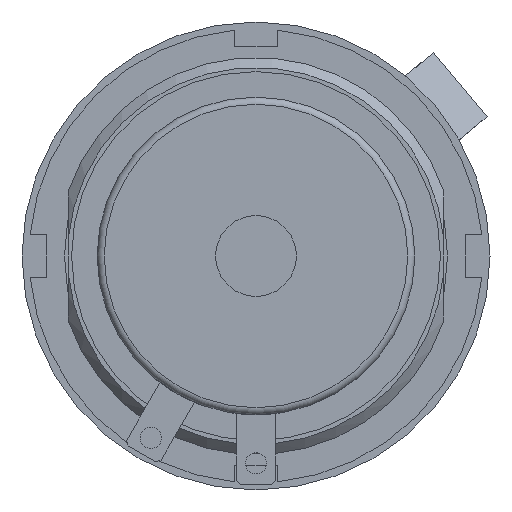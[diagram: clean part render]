
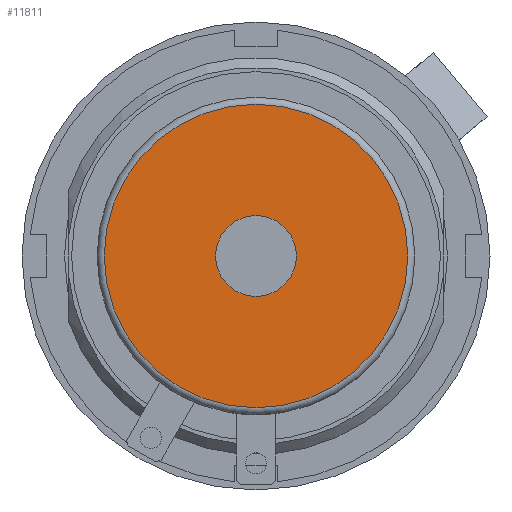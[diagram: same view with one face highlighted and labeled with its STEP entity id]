
A CAD part, front view. The second image highlights one B-rep face of the part: STEP entity #11811.
In plain terms, the highlighted planar face has unit normal (0, -1, 0).
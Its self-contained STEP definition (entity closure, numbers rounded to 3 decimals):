
#705 = PLANE ( 'NONE',  #7995 ) ;
#1528 = EDGE_LOOP ( 'NONE', ( #6885 ) ) ;
#1931 = FACE_BOUND ( 'NONE', #1528, .T. ) ;
#2006 = CIRCLE ( 'NONE', #12039, 10.7 ) ;
#2149 = EDGE_CURVE ( 'NONE', #6609, #6609, #2006, .T. ) ;
#2328 = ORIENTED_EDGE ( 'NONE', *, *, #2149, .T. ) ;
#2757 = DIRECTION ( 'NONE',  ( 0., 0., 1. ) ) ;
#4219 = CARTESIAN_POINT ( 'NONE',  ( 0., -19.68, 10.7 ) ) ;
#4637 = CARTESIAN_POINT ( 'NONE',  ( 0., -19.68, 0. ) ) ;
#4737 = DIRECTION ( 'NONE',  ( 0., 1., 0. ) ) ;
#4751 = DIRECTION ( 'NONE',  ( 0., 0., 1. ) ) ;
#5042 = CARTESIAN_POINT ( 'NONE',  ( 0., -19.68, 2.85 ) ) ;
#5864 = FACE_OUTER_BOUND ( 'NONE', #10316, .T. ) ;
#5966 = EDGE_CURVE ( 'NONE', #7650, #7650, #10270, .T. ) ;
#6609 = VERTEX_POINT ( 'NONE', #4219 ) ;
#6885 = ORIENTED_EDGE ( 'NONE', *, *, #5966, .T. ) ;
#7452 = DIRECTION ( 'NONE',  ( 0., 0., 1. ) ) ;
#7650 = VERTEX_POINT ( 'NONE', #5042 ) ;
#7718 = DIRECTION ( 'NONE',  ( 0., 1., 0. ) ) ;
#7995 = AXIS2_PLACEMENT_3D ( 'NONE', #11294, #4737, #2757 ) ;
#8439 = DIRECTION ( 'NONE',  ( 0., -1., 0. ) ) ;
#9500 = CARTESIAN_POINT ( 'NONE',  ( 0., -19.68, 0. ) ) ;
#10270 = CIRCLE ( 'NONE', #11954, 2.85 ) ;
#10316 = EDGE_LOOP ( 'NONE', ( #2328 ) ) ;
#11294 = CARTESIAN_POINT ( 'NONE',  ( 0., -19.68, 0. ) ) ;
#11811 = ADVANCED_FACE ( 'NONE', ( #5864, #1931 ), #705, .F. ) ;
#11954 = AXIS2_PLACEMENT_3D ( 'NONE', #9500, #7718, #4751 ) ;
#12039 = AXIS2_PLACEMENT_3D ( 'NONE', #4637, #8439, #7452 ) ;
